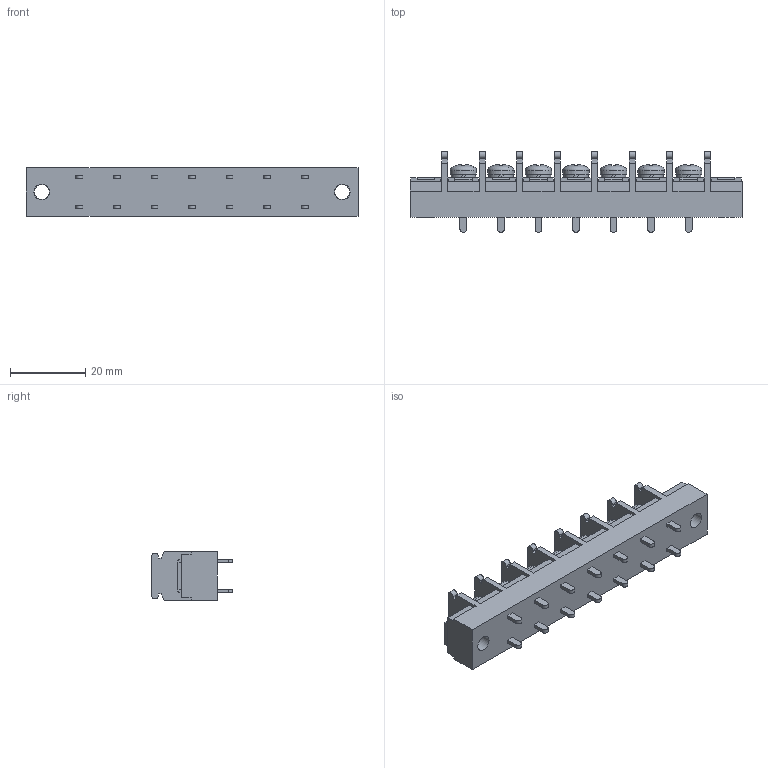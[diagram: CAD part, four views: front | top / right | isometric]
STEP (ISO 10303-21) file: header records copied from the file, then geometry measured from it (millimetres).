
FILE_DESCRIPTION(/* description */ ('Alibre Inc.'),/* implementation_level */ '2;1');
FILE_NAME(/* name */ 'export0',/* time_stamp */ '2015-10-17T19:05:04+09:00',/* author */ (''),/* organization */ (''),/* preprocessor_version */ 'ST-DEVELOPER v14',/* originating_system */ 'Alibre',/* authorisation */ '');
FILE_SCHEMA (('CONFIG_CONTROL_DESIGN'));
Length unit declared in the file: centimetre
Products named in the file (1): ID_1
Bounding box: 88.4 x 21.5 x 13 mm (x, y, z)
Volume: 12961.3 mm3; surface area: 7687.4 mm2
Topology: 1 solids, 17 shells, 916 faces, 2471 edges, 1641 vertices
Faces by surface type: plane 690, bspline 104, cylinder 73, cone 28, torus 14, sphere 7
Full cylindrical faces by diameter (mm): 4 x9, 4.2 x2, 6.5 x7, 7 x7
Entity records: 27721 total; most frequent: CARTESIAN_POINT 6097, ORIENTED_EDGE 4832, DIRECTION 3424, EDGE_CURVE 2416, VECTOR 1808, LINE 1808, VERTEX_POINT 1618, AXIS2_PLACEMENT_3D 1143
